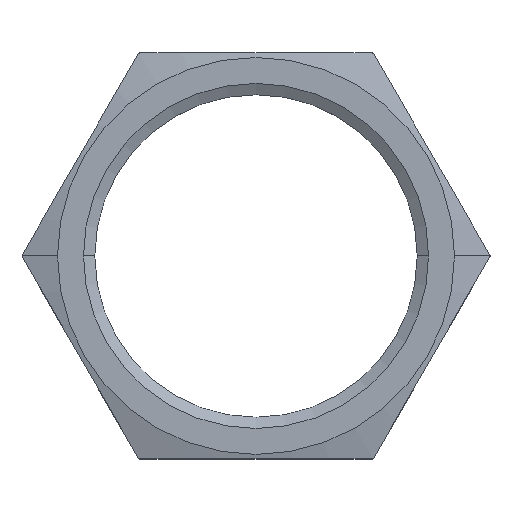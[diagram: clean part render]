
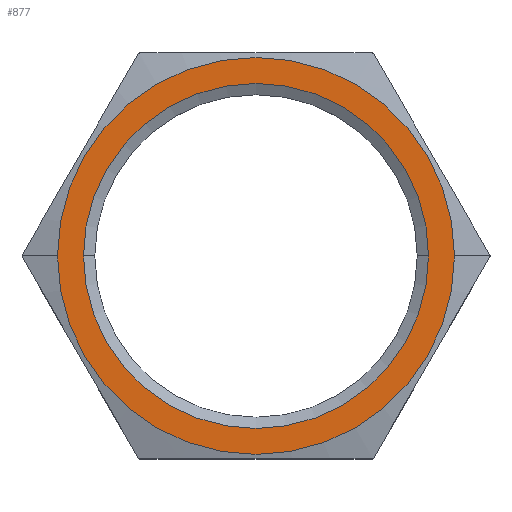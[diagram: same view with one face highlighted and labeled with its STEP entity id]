
A CAD part, top view. The second image highlights one B-rep face of the part: STEP entity #877.
In plain terms, the highlighted planar face has unit normal (0, 0, 1).
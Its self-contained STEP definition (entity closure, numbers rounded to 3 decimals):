
#49=CARTESIAN_POINT('',(-17.6,0.,5.0));
#50=VERTEX_POINT('',#49);
#59=CARTESIAN_POINT('',(17.6,0.,5.0));
#60=VERTEX_POINT('',#59);
#61=CARTESIAN_POINT('',(0.0,0.0,5.0));
#62=DIRECTION('',(0.0,0.0,-1.0));
#63=DIRECTION('',(-1.0,0.0,0.0));
#64=AXIS2_PLACEMENT_3D('',#61,#62,#63);
#65=CIRCLE('',#64,17.6);
#66=EDGE_CURVE('',#50,#60,#65,.T.);
#165=CARTESIAN_POINT('',(-15.3,0.,5.0));
#166=VERTEX_POINT('',#165);
#182=CARTESIAN_POINT('',(15.3,0.,5.0));
#183=VERTEX_POINT('',#182);
#190=CARTESIAN_POINT('',(0.0,0.0,5.0));
#191=DIRECTION('',(0.0,0.0,1.0));
#192=DIRECTION('',(-1.0,0.0,0.0));
#193=AXIS2_PLACEMENT_3D('',#190,#191,#192);
#194=CIRCLE('',#193,15.3);
#195=EDGE_CURVE('',#183,#166,#194,.T.);
#846=CARTESIAN_POINT('',(0.0,0.0,5.0));
#847=DIRECTION('',(0.0,0.0,1.0));
#848=DIRECTION('',(-1.0,0.0,0.0));
#849=AXIS2_PLACEMENT_3D('',#846,#847,#848);
#850=CIRCLE('',#849,15.3);
#851=EDGE_CURVE('',#166,#183,#850,.T.);
#858=CARTESIAN_POINT('',(0.0,0.0,5.0));
#859=DIRECTION('',(0.0,0.0,-1.0));
#860=DIRECTION('',(-1.0,0.0,0.0));
#861=AXIS2_PLACEMENT_3D('',#858,#859,#860);
#862=PLANE('',#861);
#863=CARTESIAN_POINT('',(0.0,0.0,5.0));
#864=DIRECTION('',(0.0,0.0,-1.0));
#865=DIRECTION('',(-1.0,0.0,0.0));
#866=AXIS2_PLACEMENT_3D('',#863,#864,#865);
#867=CIRCLE('',#866,17.6);
#868=EDGE_CURVE('',#60,#50,#867,.T.);
#869=ORIENTED_EDGE('',*,*,#868,.F.);
#870=ORIENTED_EDGE('',*,*,#66,.F.);
#871=EDGE_LOOP('',(#869,#870));
#872=FACE_OUTER_BOUND('',#871,.T.);
#873=ORIENTED_EDGE('',*,*,#195,.F.);
#874=ORIENTED_EDGE('',*,*,#851,.F.);
#875=EDGE_LOOP('',(#873,#874));
#876=FACE_BOUND('',#875,.T.);
#877=ADVANCED_FACE('',(#872,#876),#862,.F.);
